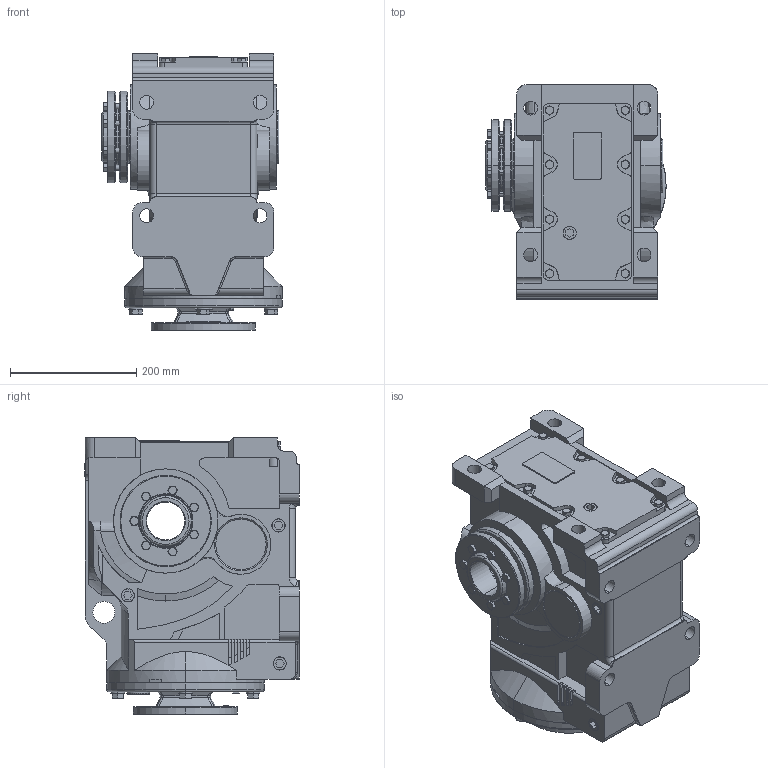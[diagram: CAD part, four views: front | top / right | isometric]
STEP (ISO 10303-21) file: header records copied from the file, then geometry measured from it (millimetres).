
FILE_DESCRIPTION (( 'STEP AP203' ), '1' );
FILE_NAME ('KHN87-143TC-B-POWER LOCK.STEP', '2020-11-25T03:04:33', ( 'Microsoft' ), ( 'Microsoft' ), 'SwSTEP 2.0', 'SolidWorks 2012', '' );
FILE_SCHEMA (( 'CONFIG_CONTROL_DESIGN' ));
Products named in the file (1): KHN87-143TC-B-POWER LOCK
Bounding box: 286 x 340.5 x 438.5 mm (x, y, z)
Volume: 22881507.3 mm3; surface area: 999236.9 mm2
Topology: 2 solids, 22 shells, 1546 faces, 3901 edges, 2497 vertices
Faces by surface type: plane 713, cylinder 409, cone 269, bspline 113, torus 42
Entity records: 55921 total; most frequent: CARTESIAN_POINT 19080, ORIENTED_EDGE 7750, DIRECTION 7431, EDGE_CURVE 3875, AXIS2_PLACEMENT_3D 2672, VERTEX_POINT 2497, VECTOR 2087, LINE 2087
